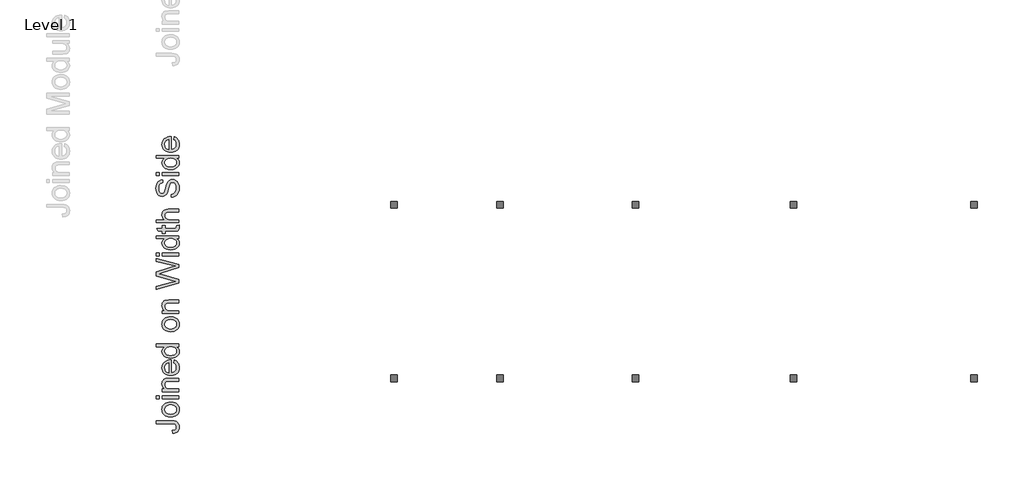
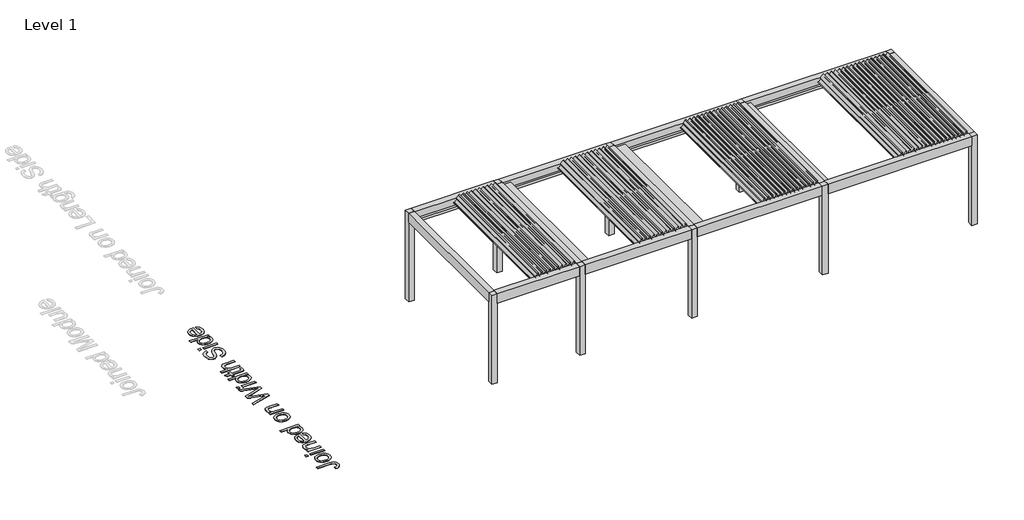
# One storey, part 46 of 69: 2 proxies.
"""IFC4 building model written with IfcOpenShell, lengths in millimetres."""

from ifc_helpers import new_model, si_unit, origin, origin_with_axes, place, context, project, spatial, polyline, outline, extrude, transform, mapped, element, save
from components import generic_models_8e60f1ae

model = new_model("IFC4")

# Units and contexts
model_context = context("Model", 3, world=origin())
ifc_project = project(units=[si_unit("LENGTHUNIT", "METRE", prefix="MILLI")], contexts=[model_context])

# Site, building, storey
site = spatial("IfcSite", under=ifc_project)
building = spatial("IfcBuilding", under=site)
storey = spatial("IfcBuildingStorey", under=building, Name="Level 1", Elevation=0.0)

# Proxies
placement = place(None, origin())
generic_models_shape = generic_models_8e60f1ae(model_context)
element("IfcBuildingElementProxy", 1, Name="Renson_Camargue_Skye_Freestanding_Patio covers : Renson_Camargue_Skye_Freestanding_Patio covers", ObjectType="Renson_Camargue_Skye_Freestanding_Patio covers : Renson_Camargue_Skye_Freestanding_Patio covers", at=placement, inside=storey, context=model_context, shape_type="MappedRepresentation", body=[
    mapped(generic_models_shape, transform((88782.7944478, 14204.0136657, 0.0), x_axis=(1.0, 0.0, 0.0), y_axis=(0.0, 1.0, 0.0), z_axis=(0.0, 0.0, 1.0))),
])
element("IfcBuildingElementProxy", 2, Name="500mm Arial", ObjectType="500mm Arial", at=placement, inside=storey, context=model_context, shape_type="SweptSolid", body=[
    extrude(outline(polyline([(82701.6006181, 11064.9341672), (82693.5072142, 11127.7193611), (82739.1552384, 11134.2492665), (82755.5643083, 11140.6642088), (82767.6967499, 11149.1791441), (82782.6879412, 11171.9878278), (82787.685005, 11202.1541514), (82784.8492479, 11225.3460455), (82776.3419768, 11245.1350312), (82762.9449408, 11260.402134), (82745.4398892, 11270.0283795), (82720.1020168, 11275.1327422), (82683.2065183, 11276.8341965), (82340.3404988, 11276.8341965), (82340.3404988, 11339.6193903), (82682.1028723, 11339.6193903), (82738.0056072, 11335.8332714), (82779.6529147, 11324.4749148), (82810.0798214, 11304.8851986), (82832.3213537, 11276.4050008), (82845.9329875, 11240.6438052), (82850.4701988, 11199.2110955), (82848.1287832, 11168.2706868), (82841.1045363, 11141.1777107), (82829.3974583, 11117.9321672), (82813.007549, 11098.5340561), (82791.9961221, 11083.328267), (82766.4244913, 11072.6596891), (82736.2926567, 11066.5283225), (82701.6006181, 11064.9341672)])), origin_with_axes(), (0.0, 0.0, 1.0), 5.0),
    extrude(outline(polyline([(82658.1905427, 11425.9490318), (82610.4195327, 11429.3442761), (82569.2550703, 11439.5300088), (82534.6971554, 11456.5062301), (82506.745788, 11480.2729398), (82488.8805186, 11504.2005979), (82476.1196119, 11530.6114595), (82468.4630679, 11559.5055245), (82465.9108865, 11590.882793), (82469.0187229, 11625.5211821), (82478.3422323, 11656.8409691), (82493.8814145, 11684.8421538), (82515.6362695, 11709.5247364), (82542.8710335, 11729.6701078), (82574.8499423, 11744.0596587), (82611.5729961, 11752.6933893), (82653.0401947, 11755.5712995), (82716.4691821, 11750.4822652), (82742.5044974, 11744.1209724), (82764.7536939, 11735.2151624), (82783.9716961, 11723.8759664), (82800.9134284, 11710.2145152), (82815.5788908, 11694.2308089), (82827.9680834, 11675.9248476), (82844.84467, 11635.197245), (82850.4701988, 11590.882793), (82847.3738587, 11555.7385661), (82838.0848383, 11524.1275393), (82822.6031377, 11496.0497124), (82800.9287568, 11471.5050856), (82773.4295776, 11451.5743121), (82740.4734822, 11437.3380453), (82702.0604706, 11428.7962852), (82658.1905427, 11425.9490318)]), holes=[polyline([(82658.0679153, 11488.7342257), (82688.5216467, 11490.550643), (82714.8903552, 11495.9998951), (82737.1740406, 11505.0819818), (82755.372703, 11517.7969033), (82769.5093351, 11533.2632755), (82779.6069295, 11550.5997145), (82785.6654861, 11569.8062204), (82787.685005, 11590.882793), (82785.6539898, 11611.8520667), (82779.5609442, 11630.9819305), (82769.4058683, 11648.2723842), (82755.1887621, 11663.723428), (82736.8099907, 11676.4383495), (82714.1699196, 11685.5204363), (82687.2685487, 11690.9696883), (82656.105878, 11692.7861057), (82626.6178368, 11690.958192), (82600.9389072, 11685.474451), (82579.069089, 11676.3348827), (82561.0083823, 11663.539487), (82546.8717502, 11648.0309617), (82536.7741558, 11630.7520042), (82530.7155992, 11611.7026147), (82528.6960804, 11590.882793), (82530.707935, 11569.8062204), (82536.743499, 11550.5997145), (82546.8027723, 11533.2632755), (82560.8857549, 11517.7969033), (82579.0307679, 11505.0819818), (82601.2761323, 11495.9998951), (82627.6218481, 11490.550643), (82658.0679153, 11488.7342257)])]), origin_with_axes(), (0.0, 0.0, 1.0), 5.0),
    extrude(outline(polyline([(82403.1256927, 11826.2046426), (82340.3404988, 11826.2046426), (82340.3404988, 11888.9898364), (82403.1256927, 11888.9898364), (82403.1256927, 11826.2046426)])), origin_with_axes(), (0.0, 0.0, 1.0), 5.0),
    extrude(outline(polyline([(82842.6220496, 11826.2046426), (82473.7590357, 11826.2046426), (82473.7590357, 11888.9898364), (82842.6220496, 11888.9898364), (82842.6220496, 11826.2046426)])), origin_with_axes(), (0.0, 0.0, 1.0), 5.0),
    extrude(outline(polyline([(82842.6220496, 11983.1676272), (82473.7590357, 11983.1676272), (82473.7590357, 12045.952821), (82525.2625151, 12045.952821), (82499.2961776, 12067.7651577), (82480.7487936, 12093.9614214), (82469.6203633, 12124.5416123), (82465.9108865, 12159.5057302), (82468.8999277, 12190.4538031), (82477.8670514, 12218.7960451), (82491.693283, 12242.4324633), (82509.2596483, 12259.2630646), (82530.5201619, 12270.6827348), (82555.4288387, 12278.08636), (82616.1293679, 12281.3972979), (82842.6220496, 12281.3972979), (82842.6220496, 12218.6121041), (82624.5906538, 12218.6121041), (82592.1250677, 12216.803351), (82569.0404725, 12211.3770915), (82552.5011111, 12201.3676356), (82539.6712265, 12185.8092929), (82531.4398669, 12165.867023), (82528.6960804, 12142.7057858), (82530.2365862, 12123.6410678), (82534.8581038, 12105.9329147), (82542.560633, 12089.5813264), (82553.344174, 12074.586303), (82568.435, 12062.0591546), (82589.0593844, 12053.1111915), (82615.2173271, 12047.7424137), (82646.9088281, 12045.952821), (82842.6220496, 12045.952821), (82842.6220496, 11983.1676272)])), origin_with_axes(), (0.0, 0.0, 1.0), 5.0),
    extrude(outline(polyline([(82732.7479603, 12625.9801001), (82740.5961096, 12687.5390206), (82765.2518675, 12678.1005482), (82786.9798978, 12665.358802), (82805.7802006, 12649.3137821), (82821.6527758, 12629.9654884), (82834.2603984, 12607.5131904), (82843.2658431, 12582.1561574), (82848.6691099, 12553.8943896), (82850.4701988, 12522.7278868), (82847.3623624, 12483.7707163), (82838.038853, 12449.0595172), (82822.4996709, 12418.5942895), (82800.7448158, 12392.3750332), (82773.3797603, 12371.2907963), (82741.0099768, 12356.2306271), (82703.6354654, 12347.1945256), (82661.2562259, 12344.1824918), (82617.4399475, 12347.2251825), (82578.8200022, 12356.3532545), (82545.3963901, 12371.5667078), (82517.1691112, 12392.8655425), (82494.7436379, 12419.015821), (82478.7254427, 12448.7836058), (82469.1145256, 12482.1688968), (82465.9108865, 12519.1716942), (82469.1068613, 12554.9827071), (82478.6947858, 12587.367819), (82494.67466, 12616.3270298), (82517.0464838, 12641.8603396), (82545.2124491, 12662.7031538), (82578.5747475, 12677.5908783), (82617.1333792, 12686.523513), (82660.888344, 12689.5010579), (82677.8109157, 12689.1331759), (82677.8109157, 12406.9676856), (82702.8652124, 12410.6043524), (82724.8078406, 12417.8355329), (82743.6388002, 12428.661227), (82759.3580913, 12443.0814348), (82771.751116, 12460.2990786), (82780.6032766, 12479.5170808), (82785.9145729, 12500.7354413), (82787.685005, 12523.9541601), (82784.4047238, 12557.370108), (82774.5638805, 12585.5130806), (82757.5493382, 12608.383078), (82732.7479603, 12625.9801001)]), holes=[polyline([(82615.0257219, 12406.9676856), (82615.0257219, 12626.7158641), (82581.8550287, 12618.2239214), (82558.12664, 12601.5772611), (82545.2507701, 12584.4554199), (82536.0537203, 12564.9730026), (82530.5354903, 12543.1300091), (82528.6960804, 12518.9264395), (82534.5668639, 12476.6046816), (82541.9053432, 12458.1914214), (82552.1792144, 12441.6099068), (82564.9132964, 12427.6955368), (82579.6324083, 12417.2837099), (82596.3365501, 12410.3744262), (82615.0257219, 12406.9676856)])]), origin_with_axes(), (0.0, 0.0, 1.0), 5.0),
    extrude(outline(polyline([(82842.6220496, 12979.8825795), (82783.3930483, 12979.8825795), (82812.7393017, 12961.0976051), (82833.7009112, 12938.3425708), (82846.2778769, 12911.6174767), (82850.4701988, 12880.9223228), (82844.4001459, 12840.332676), (82826.1899871, 12803.1765944), (82797.1119811, 12771.7226839), (82758.4383863, 12748.2395498), (82711.7327014, 12733.6162405), (82658.5584247, 12728.7418041), (82606.0432698, 12733.2330301), (82558.6171493, 12746.7067082), (82537.4869272, 12756.8081346), (82518.9778643, 12769.1475099), (82503.0899606, 12783.7248339), (82489.8232162, 12800.5401068), (82471.8889689, 12838.5085944), (82465.9108865, 12880.6770681), (82470.1875147, 12911.3952147), (82483.0173993, 12938.5571687), (82502.6837576, 12961.5804502), (82527.469807, 12979.8825795), (82340.3404988, 12979.8825795), (82340.3404988, 13042.6677733), (82842.6220496, 13042.6677733), (82842.6220496, 12979.8825795)]), holes=[polyline([(82658.31317, 12791.5269979), (82688.7592372, 12793.29743), (82715.104953, 12798.6087263), (82737.3503174, 12807.4608868), (82755.4953304, 12819.8539116), (82769.578313, 12834.6534977), (82779.6375863, 12850.7253423), (82785.6731503, 12868.0694455), (82787.685005, 12886.6858073), (82785.7651208, 12905.3903075), (82780.0054683, 12922.630944), (82770.4060475, 12938.4077166), (82756.9668584, 12952.7206255), (82739.580602, 12964.6039803), (82718.1399795, 12973.092091), (82692.6449908, 12978.1849573), (82663.0956359, 12979.8825795), (82630.6990277, 12978.1543005), (82602.9162729, 12972.9694636), (82579.7473714, 12964.3280688), (82561.1923233, 12952.2301162), (82546.975217, 12937.6029747), (82536.8201411, 12921.3740138), (82530.7270955, 12903.5432334), (82528.6960804, 12884.1106334), (82530.6466213, 12865.1263896), (82536.4982443, 12847.7822864), (82546.2509493, 12832.0783237), (82559.9047363, 12818.0145016), (82577.7585094, 12806.4262187), (82600.1111727, 12798.1488738), (82626.9627262, 12793.1824669), (82658.31317, 12791.5269979)])]), origin_with_axes(), (0.0, 0.0, 1.0), 5.0),
    extrude(outline(polyline([(82658.1905427, 13317.3529964), (82610.4195327, 13320.7482406), (82569.2550703, 13330.9339734), (82534.6971554, 13347.9101946), (82506.745788, 13371.6769043), (82488.8805186, 13395.6045624), (82476.1196119, 13422.015424), (82468.4630679, 13450.909489), (82465.9108865, 13482.2867575), (82469.0187229, 13516.9251466), (82478.3422323, 13548.2449336), (82493.8814145, 13576.2461184), (82515.6362695, 13600.928701), (82542.8710335, 13621.0740723), (82574.8499423, 13635.4636233), (82611.5729961, 13644.0973539), (82653.0401947, 13646.975264), (82716.4691821, 13641.8862298), (82742.5044974, 13635.5249369), (82764.7536939, 13626.619127), (82783.9716961, 13615.2799309), (82800.9134284, 13601.6184797), (82815.5788908, 13585.6347735), (82827.9680834, 13567.3288121), (82844.84467, 13526.6012095), (82850.4701988, 13482.2867575), (82847.3738587, 13447.1425307), (82838.0848383, 13415.5315038), (82822.6031377, 13387.453677), (82800.9287568, 13362.9090501), (82773.4295776, 13342.9782766), (82740.4734822, 13328.7420098), (82702.0604706, 13320.2002497), (82658.1905427, 13317.3529964)]), holes=[polyline([(82658.0679153, 13380.1381902), (82688.5216467, 13381.9546076), (82714.8903552, 13387.4038596), (82737.1740406, 13396.4859464), (82755.372703, 13409.2008678), (82769.5093351, 13424.66724), (82779.6069295, 13442.0036791), (82785.6654861, 13461.2101849), (82787.685005, 13482.2867575), (82785.6539898, 13503.2560313), (82779.5609442, 13522.385895), (82769.4058683, 13539.6763488), (82755.1887621, 13555.1273926), (82736.8099907, 13567.842314), (82714.1699196, 13576.9244008), (82687.2685487, 13582.3736528), (82656.105878, 13584.1900702), (82626.6178368, 13582.3621565), (82600.9389072, 13576.8784155), (82579.069089, 13567.7388472), (82561.0083823, 13554.9434516), (82546.8717502, 13539.4349262), (82536.7741558, 13522.1559688), (82530.7155992, 13503.1065792), (82528.6960804, 13482.2867575), (82530.707935, 13461.2101849), (82536.743499, 13442.0036791), (82546.8027723, 13424.66724), (82560.8857549, 13409.2008678), (82579.0307679, 13396.4859464), (82601.2761323, 13387.4038596), (82627.6218481, 13381.9546076), (82658.0679153, 13380.1381902)])]), origin_with_axes(), (0.0, 0.0, 1.0), 5.0),
    extrude(outline(polyline([(82842.6220496, 13717.6086071), (82473.7590357, 13717.6086071), (82473.7590357, 13780.393801), (82525.2625151, 13780.393801), (82499.2961776, 13802.2061376), (82480.7487936, 13828.4024013), (82469.6203633, 13858.9825922), (82465.9108865, 13893.9467101), (82468.8999277, 13924.894783), (82477.8670514, 13953.237025), (82491.693283, 13976.8734432), (82509.2596483, 13993.7040445), (82530.5201619, 14005.1237148), (82555.4288387, 14012.5273399), (82616.1293679, 14015.8382779), (82842.6220496, 14015.8382779), (82842.6220496, 13953.053084), (82624.5906538, 13953.053084), (82592.1250677, 13951.2443309), (82569.0404725, 13945.8180715), (82552.5011111, 13935.8086155), (82539.6712265, 13920.2502728), (82531.4398669, 13900.308003), (82528.6960804, 13877.1467657), (82530.2365862, 13858.0820477), (82534.8581038, 13840.3738946), (82542.560633, 13824.0223063), (82553.344174, 13809.0272829), (82568.435, 13796.5001346), (82589.0593844, 13787.5521715), (82615.2173271, 13782.1833936), (82646.9088281, 13780.393801), (82842.6220496, 13780.393801), (82842.6220496, 13717.6086071)])), origin_with_axes(), (0.0, 0.0, 1.0), 5.0),
    extrude(outline(polyline([(82842.6220496, 14396.1056336), (82340.3404988, 14259.130904), (82340.3404988, 14323.8781352), (82670.4532758, 14403.3406461), (82772.3565885, 14427.8661125), (82682.2254997, 14454.1083615), (82340.3404988, 14553.6817548), (82340.3404988, 14647.0011543), (82588.1703362, 14719.35128), (82680.140835, 14750.3453381), (82772.3565885, 14773.1846786), (82673.3963318, 14796.974381), (82340.3404988, 14877.1726559), (82340.3404988, 14941.9198871), (82842.6220496, 14804.8225302), (82842.6220496, 14737.7453797), (82455.1196813, 14617.32534), (82401.041028, 14600.5253955), (82466.1561412, 14581.6407865), (82842.6220496, 14471.8893246), (82842.6220496, 14396.1056336)])), origin_with_axes(), (0.0, 0.0, 1.0), 5.0),
    extrude(outline(polyline([(82403.1256927, 14996.8569317), (82340.3404988, 14996.8569317), (82340.3404988, 15059.6421255), (82403.1256927, 15059.6421255), (82403.1256927, 14996.8569317)])), origin_with_axes(), (0.0, 0.0, 1.0), 5.0),
    extrude(outline(polyline([(82842.6220496, 14996.8569317), (82473.7590357, 14996.8569317), (82473.7590357, 15059.6421255), (82842.6220496, 15059.6421255), (82842.6220496, 14996.8569317)])), origin_with_axes(), (0.0, 0.0, 1.0), 5.0),
    extrude(outline(polyline([(82842.6220496, 15381.416244), (82783.3930483, 15381.416244), (82812.7393017, 15362.6312696), (82833.7009112, 15339.8762353), (82846.2778769, 15313.1511412), (82850.4701988, 15282.4559873), (82844.4001459, 15241.8663405), (82826.1899871, 15204.710259), (82797.1119811, 15173.2563484), (82758.4383863, 15149.7732143), (82711.7327014, 15135.149905), (82658.5584247, 15130.2754686), (82606.0432698, 15134.7666946), (82558.6171493, 15148.2403727), (82537.4869272, 15158.3417991), (82518.9778643, 15170.6811744), (82503.0899606, 15185.2584985), (82489.8232162, 15202.0737713), (82471.8889689, 15240.0422589), (82465.9108865, 15282.2107326), (82470.1875147, 15312.9288792), (82483.0173993, 15340.0908332), (82502.6837576, 15363.1141147), (82527.469807, 15381.416244), (82340.3404988, 15381.416244), (82340.3404988, 15444.2014378), (82842.6220496, 15444.2014378), (82842.6220496, 15381.416244)]), holes=[polyline([(82658.31317, 15193.0606624), (82688.7592372, 15194.8310945), (82715.104953, 15200.1423908), (82737.3503174, 15208.9945514), (82755.4953304, 15221.3875761), (82769.578313, 15236.1871622), (82779.6375863, 15252.2590068), (82785.6731503, 15269.6031101), (82787.685005, 15288.2194719), (82785.7651208, 15306.9239721), (82780.0054683, 15324.1646085), (82770.4060475, 15339.9413811), (82756.9668584, 15354.25429), (82739.580602, 15366.1376449), (82718.1399795, 15374.6257555), (82692.6449908, 15379.7186218), (82663.0956359, 15381.416244), (82630.6990277, 15379.687965), (82602.9162729, 15374.5031281), (82579.7473714, 15365.8617334), (82561.1923233, 15353.7637807), (82546.975217, 15339.1366393), (82536.8201411, 15322.9076783), (82530.7270955, 15305.0768979), (82528.6960804, 15285.6442979), (82530.6466213, 15266.6600541), (82536.4982443, 15249.3159509), (82546.2509493, 15233.6119882), (82559.9047363, 15219.5481661), (82577.7585094, 15207.9598832), (82600.1111727, 15199.6825384), (82626.9627262, 15194.7161314), (82658.31317, 15193.0606624)])]), origin_with_axes(), (0.0, 0.0, 1.0), 5.0),
    extrude(outline(polyline([(82790.2601789, 15671.7977655), (82844.4614595, 15679.6459147), (82850.4701988, 15632.6796467), (82847.864368, 15602.5439799), (82840.0468756, 15580.0725214), (82827.9987403, 15564.1922819), (82812.7009806, 15553.8302724), (82786.4280748, 15548.1281015), (82741.4545009, 15546.2273778), (82536.5442296, 15546.2273778), (82536.5442296, 15499.1384824), (82473.7590357, 15499.1384824), (82473.7590357, 15546.2273778), (82384.1184562, 15546.2273778), (82347.2076294, 15609.0125717), (82473.7590357, 15609.0125717), (82473.7590357, 15671.7977655), (82536.5442296, 15671.7977655), (82536.5442296, 15609.0125717), (82739.6150909, 15609.0125717), (82771.9887065, 15612.3235096), (82783.454362, 15623.0534011), (82787.685005, 15644.4518705), (82790.2601789, 15671.7977655)])), origin_with_axes(), (0.0, 0.0, 1.0), 5.0),
    extrude(outline(polyline([(82842.6220496, 15734.5829593), (82340.3404988, 15734.5829593), (82340.3404988, 15797.3681532), (82525.0172604, 15797.3681532), (82499.1582218, 15820.4297558), (82480.68748, 15846.3271154), (82469.6050349, 15875.060232), (82465.9108865, 15906.6291058), (82469.94226, 15944.5516081), (82482.0363806, 15977.1398215), (82501.2428865, 16002.7995907), (82526.6114157, 16019.9367603), (82561.4682348, 16029.5936626), (82609.13961, 16032.8126301), (82842.6220496, 16032.8126301), (82842.6220496, 15970.0274363), (82615.6388585, 15970.0274363), (82576.3367987, 15965.0303725), (82561.330279, 15958.7840428), (82549.4200994, 15950.0391812), (82540.3533411, 15939.0027213), (82533.8770851, 15925.8815968), (82528.6960804, 15893.3853539), (82532.1909593, 15866.851865), (82542.6755962, 15841.9431883), (82559.1383155, 15821.3111397), (82580.5674417, 15807.6075354), (82609.0476395, 15799.9279987), (82646.6635735, 15797.3681532), (82842.6220496, 15797.3681532), (82842.6220496, 15734.5829593)])), origin_with_axes(), (0.0, 0.0, 1.0), 5.0),
    extrude(outline(polyline([(82669.9627665, 16299.6497039), (82669.9627665, 16362.4348978), (82704.8042571, 16369.6392535), (82732.809274, 16382.6684075), (82755.0354779, 16402.9938877), (82772.5405295, 16432.0872222), (82783.8988861, 16467.6491484), (82787.685005, 16507.3804039), (82784.8185911, 16542.3598502), (82776.2193494, 16572.9860263), (82762.6077156, 16597.8027326), (82744.7041252, 16615.3537695), (82724.1487187, 16625.7924211), (82702.5816367, 16629.2719716), (82681.5663778, 16626.6661408), (82663.4022043, 16618.8486484), (82647.9051752, 16602.968409), (82634.8913496, 16576.174337), (82610.9177063, 16484.7556612), (82595.0527952, 16424.7449107), (82579.954305, 16386.3472275), (82558.8317471, 16355.0925863), (82533.2332916, 16332.9430245), (82503.7107615, 16319.7452579), (82470.8159798, 16315.3460024), (82434.0431087, 16320.7875902), (82399.753441, 16337.1123538), (82384.2257552, 16349.2486275), (82370.6907634, 16363.8910973), (82349.5988624, 16400.6946253), (82336.7689778, 16444.8711215), (82332.4923496, 16493.7687701), (82336.9682472, 16546.7437774), (82350.39594, 16593.0969088), (82372.4995166, 16631.1726953), (82386.7012944, 16646.4857833), (82403.0030653, 16659.3156679), (82440.0058627, 16677.1272878), (82481.607185, 16684.2090162), (82481.607185, 16621.4238224), (82461.5729447, 16617.2238363), (82444.1445351, 16609.8968532), (82429.3219564, 16599.4428732), (82417.1052085, 16585.8618962), (82407.555605, 16568.9010034), (82400.7344597, 16548.3072758), (82395.2775434, 16496.2213167), (82400.673146, 16442.9090842), (82407.4176493, 16422.5299545), (82416.8599538, 16406.3354825), (82428.2106462, 16393.9961073), (82440.680313, 16385.1822678), (82454.2689542, 16379.8939641), (82468.9765698, 16378.1311962), (82493.1034973, 16383.12826), (82512.5092726, 16398.1194513), (82521.139171, 16411.8843693), (82529.86104, 16433.5587502), (82547.5806894, 16500.6359006), (82564.4112907, 16569.8590294), (82579.0959137, 16611.7362632), (82601.8739406, 16647.5281156), (82629.9862564, 16672.498106), (82663.1262928, 16687.1674006), (82700.9874814, 16692.0571655), (82739.691733, 16686.4316366), (82776.0967221, 16669.5550501), (82807.4280054, 16642.1171846), (82830.9111394, 16604.8078189), (82845.5804339, 16559.9415439), (82850.4701988, 16509.8329505), (82845.1972235, 16448.3200152), (82838.6060045, 16421.6447385), (82829.3782977, 16397.6902556), (82817.498775, 16376.3109468), (82802.9521078, 16357.3611919), (82785.7382961, 16340.8409911), (82765.8573399, 16326.7503442), (82743.9530328, 16315.3996518), (82720.6691682, 16307.0993143), (82696.0057461, 16301.8493317), (82669.9627665, 16299.6497039)])), origin_with_axes(), (0.0, 0.0, 1.0), 5.0),
    extrude(outline(polyline([(82403.1256927, 16778.386807), (82340.3404988, 16778.386807), (82340.3404988, 16841.1720008), (82403.1256927, 16841.1720008), (82403.1256927, 16778.386807)])), origin_with_axes(), (0.0, 0.0, 1.0), 5.0),
    extrude(outline(polyline([(82842.6220496, 16778.386807), (82473.7590357, 16778.386807), (82473.7590357, 16841.1720008), (82842.6220496, 16841.1720008), (82842.6220496, 16778.386807)])), origin_with_axes(), (0.0, 0.0, 1.0), 5.0),
    extrude(outline(polyline([(82842.6220496, 17162.9461193), (82783.3930483, 17162.9461193), (82812.7393017, 17144.1611449), (82833.7009112, 17121.4061107), (82846.2778769, 17094.6810165), (82850.4701988, 17063.9858626), (82844.4001459, 17023.3962158), (82826.1899871, 16986.2401343), (82797.1119811, 16954.7862237), (82758.4383863, 16931.3030896), (82711.7327014, 16916.6797803), (82658.5584247, 16911.8053439), (82606.0432698, 16916.2965699), (82558.6171493, 16929.770248), (82537.4869272, 16939.8716745), (82518.9778643, 16952.2110497), (82503.0899606, 16966.7883738), (82489.8232162, 16983.6036466), (82471.8889689, 17021.5721342), (82465.9108865, 17063.7406079), (82470.1875147, 17094.4587545), (82483.0173993, 17121.6207085), (82502.6837576, 17144.64399), (82527.469807, 17162.9461193), (82340.3404988, 17162.9461193), (82340.3404988, 17225.7313131), (82842.6220496, 17225.7313131), (82842.6220496, 17162.9461193)]), holes=[polyline([(82658.31317, 16974.5905377), (82688.7592372, 16976.3609699), (82715.104953, 16981.6722662), (82737.3503174, 16990.5244267), (82755.4953304, 17002.9174514), (82769.578313, 17017.7170375), (82779.6375863, 17033.7888821), (82785.6731503, 17051.1329854), (82787.685005, 17069.7493472), (82785.7651208, 17088.4538474), (82780.0054683, 17105.6944838), (82770.4060475, 17121.4712564), (82756.9668584, 17135.7841653), (82739.580602, 17147.6675202), (82718.1399795, 17156.1556308), (82692.6449908, 17161.2484972), (82663.0956359, 17162.9461193), (82630.6990277, 17161.2178403), (82602.9162729, 17156.0330035), (82579.7473714, 17147.3916087), (82561.1923233, 17135.293656), (82546.975217, 17120.6665146), (82536.8201411, 17104.4375536), (82530.7270955, 17086.6067732), (82528.6960804, 17067.1741732), (82530.6466213, 17048.1899294), (82536.4982443, 17030.8458262), (82546.2509493, 17015.1418635), (82559.9047363, 17001.0780414), (82577.7585094, 16989.4897586), (82600.1111727, 16981.2124137), (82626.9627262, 16976.2460067), (82658.31317, 16974.5905377)])]), origin_with_axes(), (0.0, 0.0, 1.0), 5.0),
    extrude(outline(polyline([(82732.7479603, 17578.1622645), (82740.5961096, 17639.721185), (82765.2518675, 17630.2827126), (82786.9798978, 17617.5409664), (82805.7802006, 17601.4959465), (82821.6527758, 17582.1476528), (82834.2603984, 17559.6953548), (82843.2658431, 17534.3383218), (82848.6691099, 17506.076554), (82850.4701988, 17474.9100512), (82847.3623624, 17435.9528807), (82838.038853, 17401.2416817), (82822.4996709, 17370.7764539), (82800.7448158, 17344.5571976), (82773.3797603, 17323.4729607), (82741.0099768, 17308.4127915), (82703.6354654, 17299.37669), (82661.2562259, 17296.3646562), (82617.4399475, 17299.4073469), (82578.8200022, 17308.5354189), (82545.3963901, 17323.7488722), (82517.1691112, 17345.0477069), (82494.7436379, 17371.1979854), (82478.7254427, 17400.9657702), (82469.1145256, 17434.3510612), (82465.9108865, 17471.3538586), (82469.1068613, 17507.1648715), (82478.6947858, 17539.5499834), (82494.67466, 17568.5091942), (82517.0464838, 17594.042504), (82545.2124491, 17614.8853183), (82578.5747475, 17629.7730427), (82617.1333792, 17638.7056774), (82660.888344, 17641.6832223), (82677.8109157, 17641.3153403), (82677.8109157, 17359.14985), (82702.8652124, 17362.7865168), (82724.8078406, 17370.0176973), (82743.6388002, 17380.8433914), (82759.3580913, 17395.2635992), (82771.751116, 17412.481243), (82780.6032766, 17431.6992452), (82785.9145729, 17452.9176057), (82787.685005, 17476.1363245), (82784.4047238, 17509.5522724), (82774.5638805, 17537.695245), (82757.5493382, 17560.5652424), (82732.7479603, 17578.1622645)]), holes=[polyline([(82615.0257219, 17359.14985), (82615.0257219, 17578.8980285), (82581.8550287, 17570.4060858), (82558.12664, 17553.7594255), (82545.2507701, 17536.6375843), (82536.0537203, 17517.155167), (82530.5354903, 17495.3121735), (82528.6960804, 17471.1086039), (82534.5668639, 17428.786846), (82541.9053432, 17410.3735858), (82552.1792144, 17393.7920713), (82564.9132964, 17379.8777012), (82579.6324083, 17369.4658743), (82596.3365501, 17362.5565906), (82615.0257219, 17359.14985)])]), origin_with_axes(), (0.0, 0.0, 1.0), 5.0),
])

save(model, "model.ifc")
